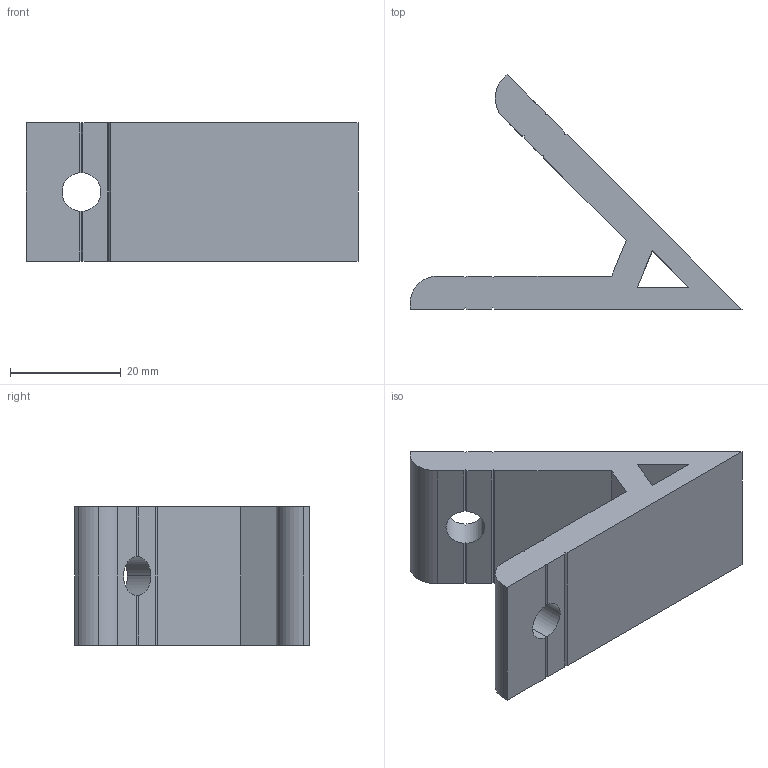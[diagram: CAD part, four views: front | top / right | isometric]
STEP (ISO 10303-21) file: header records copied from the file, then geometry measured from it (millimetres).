
FILE_DESCRIPTION (( 'STEP AP203' ), '1' );
FILE_NAME ('DALV4525-6.STEP', '2018-07-17T06:20:19', ( '' ), ( '' ), 'SwSTEP 2.0', 'SolidWorks 2012', '' );
FILE_SCHEMA (( 'CONFIG_CONTROL_DESIGN' ));
Length unit declared in the file: millimetre
Products named in the file (1): DALV4525-6
Bounding box: 60 x 42.43 x 25 mm (x, y, z)
Volume: 15051.2 mm3; surface area: 7221.9 mm2
Topology: 1 solids, 1 shells, 51 faces, 155 edges, 102 vertices
Faces by surface type: plane 44, cylinder 7
Entity records: 1804 total; most frequent: CARTESIAN_POINT 357, ORIENTED_EDGE 310, DIRECTION 261, EDGE_CURVE 155, VECTOR 121, LINE 121, VERTEX_POINT 102, AXIS2_PLACEMENT_3D 70
